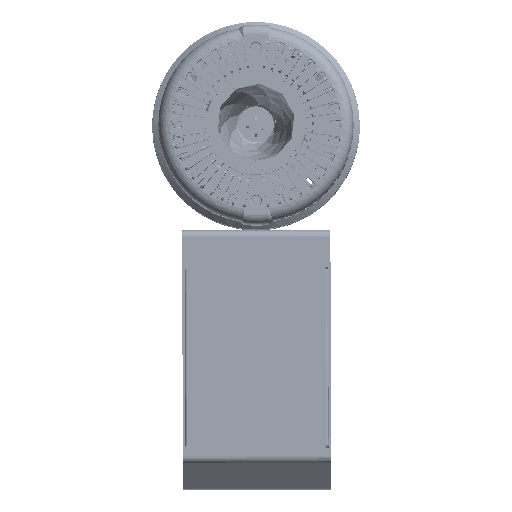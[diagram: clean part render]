
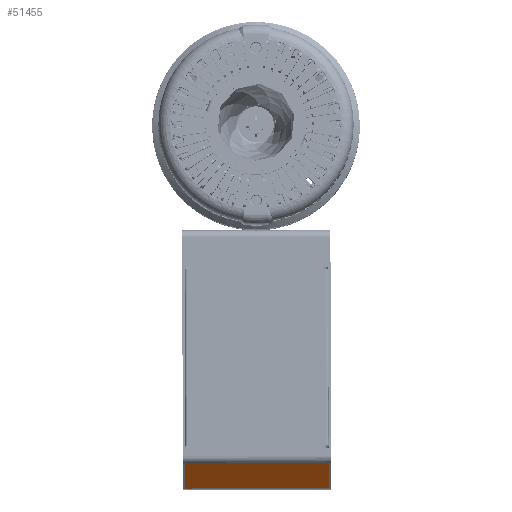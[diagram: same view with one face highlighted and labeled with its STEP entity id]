
A CAD part, front view. The second image highlights one B-rep face of the part: STEP entity #51455.
In plain terms, the highlighted planar face has unit normal (0.003, -0.364, -0.931) as drawn and (-0.94, -0.342, 0) by its records, which use the part's own axes.
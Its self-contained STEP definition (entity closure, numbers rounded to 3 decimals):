
#4212 = DIRECTION ( 'NONE',  ( 0., 0., -1. ) ) ;
#15081 = ORIENTED_EDGE ( 'NONE', *, *, #302156, .F. ) ;
#15334 = FACE_OUTER_BOUND ( 'NONE', #256762, .T. ) ;
#29923 = LINE ( 'NONE', #240744, #218545 ) ;
#37154 = CARTESIAN_POINT ( 'NONE',  ( -65.209, -1.528, 46. ) ) ;
#42484 = DIRECTION ( 'NONE',  ( 0., 0., -1. ) ) ;
#51455 = ADVANCED_FACE ( 'NONE', ( #15334 ), #92474, .F. ) ;
#63402 = LINE ( 'NONE', #222855, #318231 ) ;
#64615 = EDGE_CURVE ( 'NONE', #266425, #294850, #29923, .T. ) ;
#86743 = CARTESIAN_POINT ( 'NONE',  ( -65.209, -1.528, 46. ) ) ;
#92474 = PLANE ( 'NONE',  #164521 ) ;
#102372 = ORIENTED_EDGE ( 'NONE', *, *, #200375, .T. ) ;
#104556 = CARTESIAN_POINT ( 'NONE',  ( -80.487, 40.448, 46. ) ) ;
#145624 = CARTESIAN_POINT ( 'NONE',  ( -65.209, -1.528, 46. ) ) ;
#161493 = VERTEX_POINT ( 'NONE', #104556 ) ;
#164521 = AXIS2_PLACEMENT_3D ( 'NONE', #145624, #277646, #169646 ) ;
#167476 = LINE ( 'NONE', #37154, #172466 ) ;
#169646 = DIRECTION ( 'NONE',  ( -0.342, 0.94, 0. ) ) ;
#171464 = VERTEX_POINT ( 'NONE', #301670 ) ;
#172466 = VECTOR ( 'NONE', #225706, 1000. ) ;
#195095 = VECTOR ( 'NONE', #42484, 1000. ) ;
#200375 = EDGE_CURVE ( 'NONE', #171464, #294850, #63402, .T. ) ;
#210763 = EDGE_CURVE ( 'NONE', #161493, #171464, #279143, .T. ) ;
#218545 = VECTOR ( 'NONE', #4212, 1000. ) ;
#222855 = CARTESIAN_POINT ( 'NONE',  ( -65.209, -1.528, -46. ) ) ;
#225706 = DIRECTION ( 'NONE',  ( 0.342, -0.94, 0. ) ) ;
#240744 = CARTESIAN_POINT ( 'NONE',  ( -65.209, -1.528, 46. ) ) ;
#256762 = EDGE_LOOP ( 'NONE', ( #102372, #259775, #15081, #285961 ) ) ;
#258474 = CARTESIAN_POINT ( 'NONE',  ( -80.487, 40.448, 46. ) ) ;
#259775 = ORIENTED_EDGE ( 'NONE', *, *, #64615, .F. ) ;
#266425 = VERTEX_POINT ( 'NONE', #86743 ) ;
#272678 = DIRECTION ( 'NONE',  ( 0.342, -0.94, 0. ) ) ;
#277646 = DIRECTION ( 'NONE',  ( 0.94, 0.342, 0. ) ) ;
#279143 = LINE ( 'NONE', #258474, #195095 ) ;
#285961 = ORIENTED_EDGE ( 'NONE', *, *, #210763, .T. ) ;
#294850 = VERTEX_POINT ( 'NONE', #298044 ) ;
#298044 = CARTESIAN_POINT ( 'NONE',  ( -65.209, -1.528, -46. ) ) ;
#301670 = CARTESIAN_POINT ( 'NONE',  ( -80.487, 40.448, -46. ) ) ;
#302156 = EDGE_CURVE ( 'NONE', #161493, #266425, #167476, .T. ) ;
#318231 = VECTOR ( 'NONE', #272678, 1000. ) ;
